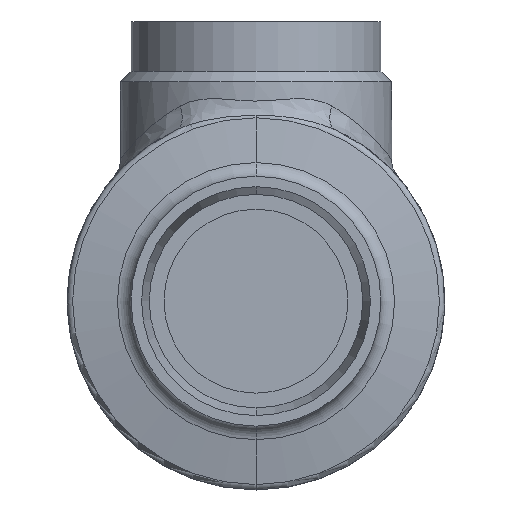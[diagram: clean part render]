
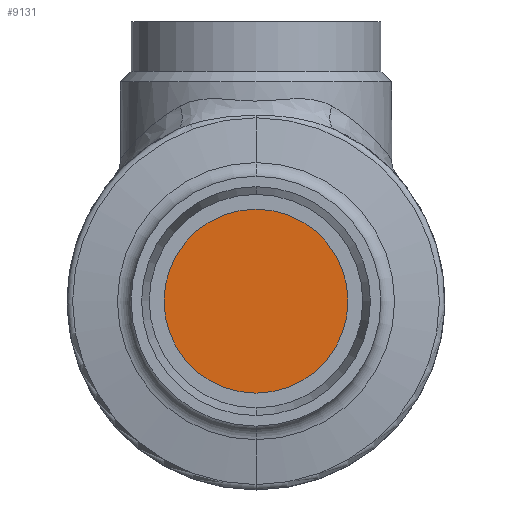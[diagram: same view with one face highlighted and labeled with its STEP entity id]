
A CAD part, front view. The second image highlights one B-rep face of the part: STEP entity #9131.
In plain terms, the highlighted planar face has unit normal (0, -1, 0) as drawn and (0, 0, 1) by its records, which use the part's own axes.
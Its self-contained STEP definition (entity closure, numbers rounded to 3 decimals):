
#1901 = VERTEX_POINT ( 'NONE', #10204 ) ;
#2122 = EDGE_CURVE ( 'NONE', #1901, #2966, #2899, .T. ) ;
#2899 = CIRCLE ( 'NONE', #2900, 28. ) ;
#2900 = AXIS2_PLACEMENT_3D ( 'NONE', #2901, #2902, #2903 ) ;
#2901 = CARTESIAN_POINT ( 'NONE',  ( 0., 0., 66.5 ) ) ;
#2902 = DIRECTION ( 'NONE',  ( 0., 0., 1. ) ) ;
#2903 = DIRECTION ( 'NONE',  ( 1., 0., 0. ) ) ;
#2966 = VERTEX_POINT ( 'NONE', #3809 ) ;
#3809 = CARTESIAN_POINT ( 'NONE',  ( -28., 0., 66.5 ) ) ;
#5874 = EDGE_CURVE ( 'NONE', #2966, #1901, #6179, .T. ) ;
#6179 = CIRCLE ( 'NONE', #6180, 28. ) ;
#6180 = AXIS2_PLACEMENT_3D ( 'NONE', #6181, #6182, #6183 ) ;
#6181 = CARTESIAN_POINT ( 'NONE',  ( 0., 0., 66.5 ) ) ;
#6182 = DIRECTION ( 'NONE',  ( 0., 0., 1. ) ) ;
#6183 = DIRECTION ( 'NONE',  ( 1., 0., 0. ) ) ;
#7029 = ORIENTED_EDGE ( 'NONE', *, *, #5874, .T. ) ;
#8413 = ORIENTED_EDGE ( 'NONE', *, *, #2122, .T. ) ;
#8898 = EDGE_LOOP ( 'NONE', ( #8413, #7029 ) ) ;
#9131 = ADVANCED_FACE ( 'NONE', ( #10338 ), #10341, .T. ) ;
#10204 = CARTESIAN_POINT ( 'NONE',  ( 28., 0., 66.5 ) ) ;
#10338 = FACE_OUTER_BOUND ( 'NONE', #8898, .T. ) ;
#10341 = PLANE ( 'NONE',  #10342 ) ;
#10342 = AXIS2_PLACEMENT_3D ( 'NONE', #10343, #10344, #10345 ) ;
#10343 = CARTESIAN_POINT ( 'NONE',  ( 0., 0., 66.5 ) ) ;
#10344 = DIRECTION ( 'NONE',  ( 0., 0., 1. ) ) ;
#10345 = DIRECTION ( 'NONE',  ( 1., 0., 0. ) ) ;
